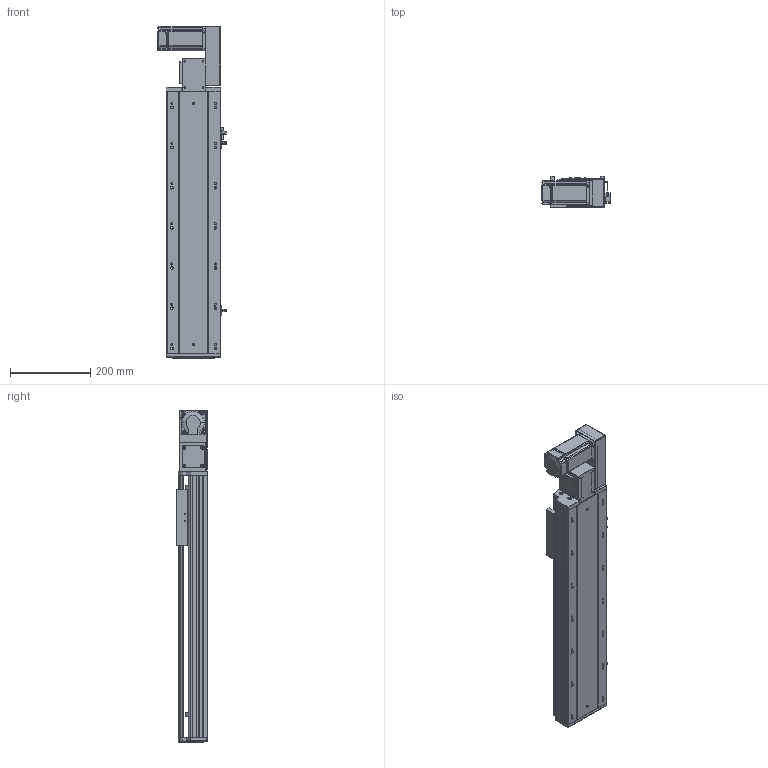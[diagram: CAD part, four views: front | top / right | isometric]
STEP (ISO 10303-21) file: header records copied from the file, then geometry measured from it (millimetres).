
FILE_DESCRIPTION (( 'STEP AP203' ), '1' );
FILE_NAME ('RY140-T-300-RK.SLDASM_400.step', '2021-03-01T06:44:58', ( '盈信电脑' ), ( '东莞市道滘镇水果街19号' ), 'SwSTEP 2.0', 'SolidWorks 2012', '' );
FILE_SCHEMA (( 'CONFIG_CONTROL_DESIGN' ));
Products named in the file (17): RY120-T蹟翐M4; 15; RY120-T主同步轮轴承压盖; RY140-T-300-RK.SLDASM_400; RY140-T萇儂假蚾啣; RY140-T翋肮謫裔啣; RY140-T萇儂欶; RY120-T肮祭湍揤踡輸1; RY140-T翋肮祭謫盓傅釱; 滅袉蝶18-10; RY120-T肮祭湍揤踡輸2; RY140綴裔啣; RY140-T-300-DR倰第奻裔啣_400; RY120外置感应片(140共用）; 覜茼ん672; RY140-T-300-DR倰第菁釱_400; RY140肮祭謫臏賑輸
Assembly tree (22 placements, depth 2):
  RY140-T-300-RK.SLDASM_400
    RY140-T-300-DR倰第菁釱_400
    RY140肮祭謫臏賑輸
    RY140-T-300-DR倰第奻裔啣_400
    RY140綴裔啣
    覜茼ん672  x3
    RY120外置感应片(140共用）
    RY120-T肮祭湍揤踡輸2
    RY120-T肮祭湍揤踡輸1
    RY140-T翋肮祭謫盓傅釱
    滅袉蝶18-10  x2
    RY140-T翋肮謫裔啣
    RY140-T萇儂欶
    RY140-T萇儂假蚾啣
    RY120-T蹟翐M4  x4
    15
    RY120-T主同步轮轴承压盖
Bounding box: 170.7 x 78 x 826.5 mm (x, y, z)
Volume: 2558648.1 mm3; surface area: 938682.5 mm2
Topology: 22 solids, 22 shells, 2587 faces, 7089 edges, 4576 vertices
Faces by surface type: plane 1385, cylinder 924, cone 178, bspline 100
Entity records: 82010 total; most frequent: CARTESIAN_POINT 20171, ORIENTED_EDGE 12746, DIRECTION 12033, EDGE_CURVE 6373, VERTEX_POINT 4175, VECTOR 4117, LINE 4117, AXIS2_PLACEMENT_3D 3958
